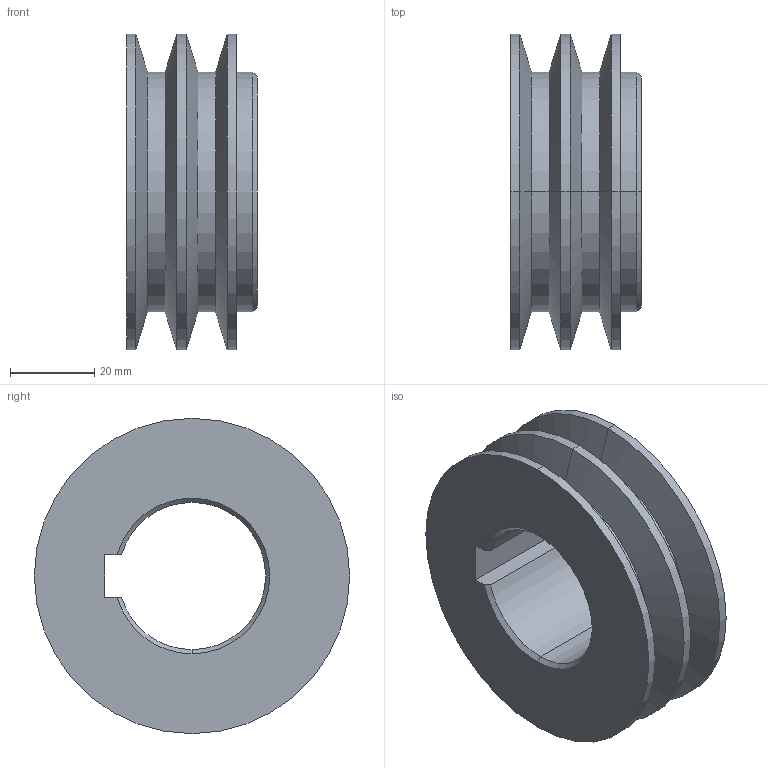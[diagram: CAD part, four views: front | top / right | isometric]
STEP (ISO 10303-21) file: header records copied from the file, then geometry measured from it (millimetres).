
FILE_DESCRIPTION (( 'STEP AP203' ), '1' );
FILE_NAME ('YWSD-2026-03-01-05=010 3V从动带轮.STEP', '2026-07-24T07:45:07', ( 'Windows 用户' ), ( '' ), 'SwSTEP 2.0', 'SolidWorks 2024', '' );
FILE_SCHEMA (( 'CONFIG_CONTROL_DESIGN' ));
Length unit declared in the file: millimetre
Products named in the file (1): YWSD-2026-03-01-05=010 3V从动带轮
Bounding box: 31 x 75 x 75 mm (x, y, z)
Volume: 70024.3 mm3; surface area: 22028.5 mm2
Topology: 1 solids, 1 shells, 37 faces, 80 edges, 46 vertices
Faces by surface type: cone 16, cylinder 15, plane 6
Entity records: 1081 total; most frequent: DIRECTION 190, CARTESIAN_POINT 176, ORIENTED_EDGE 160, EDGE_CURVE 80, AXIS2_PLACEMENT_3D 76, VERTEX_POINT 46, EDGE_LOOP 40, LINE 38
